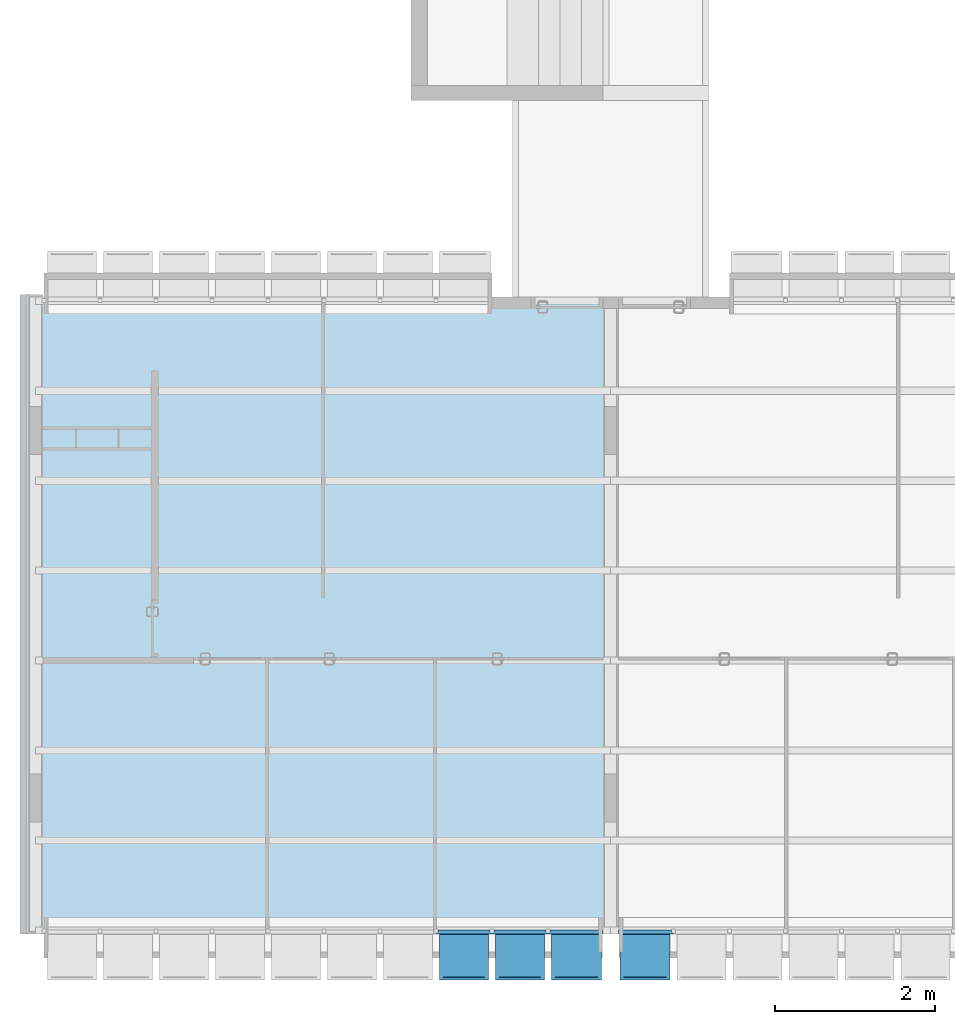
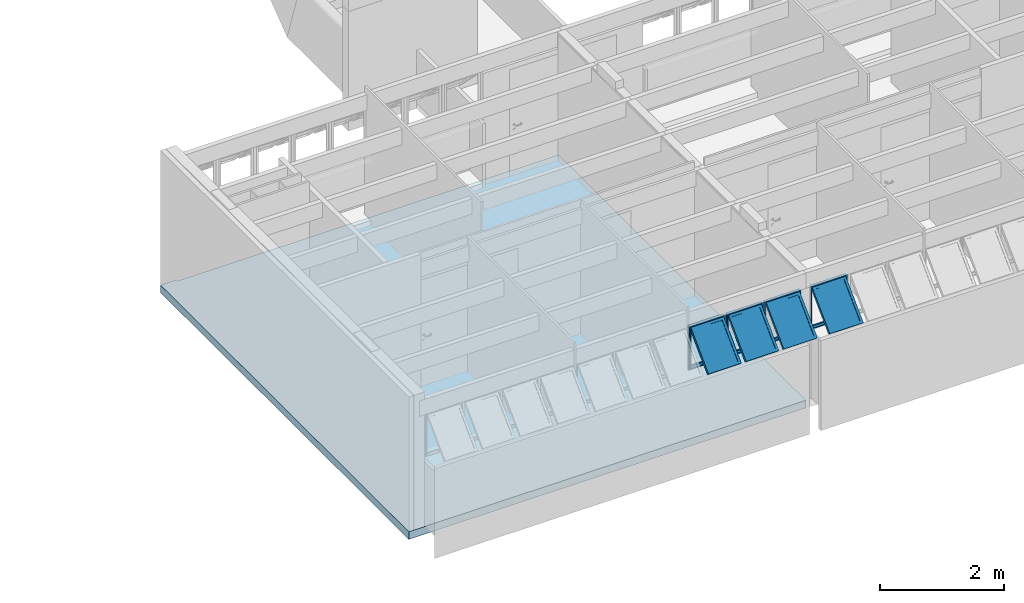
# One storey, part 5 of 41: 4 plates, 1 slab, 2 elements without a shape of their own.
"""IFC4 building model written with IfcOpenShell, lengths in millimetres."""

from ifc_helpers import new_model, entity, si_unit, converted_unit, derived_unit, direction, frame, origin_with_axes, place, context, subcontext, project, spatial, line, indexed_curve, outline, extrude, polygons, source, transform, mapped, material, layer, layer_set, layer_usage, constituent, constituent_set, type_object, element, aggregate, save


model = new_model("IFC4")

# Units and contexts
model_context = context("Model", 3, precision=0.01, world=origin_with_axes(), true_north=direction((0.0, 1.0)))
body_context = subcontext(model_context, "Body", "Model", "MODEL_VIEW")
ifc_project = project(units=[si_unit("LENGTHUNIT", "METRE", prefix="MILLI"), si_unit("AREAUNIT", "SQUARE_METRE"), si_unit("VOLUMEUNIT", "CUBIC_METRE"), converted_unit("PLANEANGLEUNIT", "DEGREE", entity("IfcPlaneAngleMeasure", 0.0174532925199), si_unit("PLANEANGLEUNIT", "RADIAN"), dimensions=[0, 0, 0, 0, 0, 0, 0]), converted_unit("TIMEUNIT", "Year", entity("IfcTimeMeasure", 31556926.0), si_unit("TIMEUNIT", "SECOND"), dimensions=[0, 0, 1, 0, 0, 0, 0]), si_unit("MASSUNIT", "GRAM", prefix="KILO"), si_unit("THERMODYNAMICTEMPERATUREUNIT", "DEGREE_CELSIUS"), si_unit("LUMINOUSINTENSITYUNIT", "LUMEN"), si_unit("ENERGYUNIT", "JOULE", prefix="MEGA"), derived_unit("THERMALCONDUCTANCEUNIT", [(si_unit("POWERUNIT", "WATT"), 1), (si_unit("LENGTHUNIT", "METRE"), -1), (si_unit("THERMODYNAMICTEMPERATUREUNIT", "KELVIN"), -1)]), derived_unit("SPECIFICHEATCAPACITYUNIT", [(si_unit("ENERGYUNIT", "JOULE"), 1), (si_unit("MASSUNIT", "GRAM", prefix="KILO"), -1), (si_unit("THERMODYNAMICTEMPERATUREUNIT", "KELVIN"), -1)]), derived_unit("MASSDENSITYUNIT", [(si_unit("MASSUNIT", "GRAM", prefix="KILO"), 1), (si_unit("VOLUMEUNIT", "CUBIC_METRE"), -1)])], contexts=[model_context])

# Site, building, storey
site_placement = place(None, origin_with_axes())
site = spatial("IfcSite", under=ifc_project, at=site_placement, Name="Local", CompositionType="ELEMENT")
building_placement = place(site_placement, origin_with_axes())
building = spatial("IfcBuilding", under=site, at=building_placement, Name="Construção", CompositionType="ELEMENT")
storey_placement = place(building_placement, frame((0.0, 0.0, 2650.0), z_axis=(0.0, 0.0, 1.0), x_axis=(1.0, 0.0, 0.0)))
storey = spatial("IfcBuildingStorey", under=building, at=storey_placement, Name="Segundo Pavimento", CompositionType="ELEMENT", Elevation=2650.0)

# Slab
ifc_material_1 = material(Name="Concreto Armado Moldado in Loco - Estrutural")
ifc_layer = layer(ifc_material_1, 150.0, ventilated="UNKNOWN", Name="Concreto Armado Moldado in Loco - Estrutural")
ifc_layer_set = layer_set([ifc_layer], Name="Concreto Armado Moldado in Loco - Estrutural 150")
ifc_layer_usage = layer_usage(ifc_layer_set, "AXIS3", "NEGATIVE", 150.0)
slab_type = type_object("IfcSlabType", Name="Concreto Armado Moldado in Loco - Estrutural 150", PredefinedType="FLOOR")
slab_placement = place(storey_placement, frame((0.0, 300.0, 0.0), z_axis=(0.0, 0.0, 1.0), x_axis=(1.0, 0.0, 0.0)))
element("IfcSlab", 1, at=slab_placement, inside=storey, type_object=slab_type, material=ifc_layer_usage, Name="APTO5-LAJE-000", PredefinedType="FLOOR", context=body_context, shape_type="SweptSolid", body=[
    extrude(outline(indexed_curve([(0.0, 0.0), (299.999978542, 0.0), (7385.0, 0.0), (7385.0, 7964.99999866), (6160.00008404, 7964.99999866), (5900.0, 7965.0), (290.0, 7965.0), (289.999999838, 8000.00000006), (0.0, 7999.99999872)], segments=[line(1, 2, 3, 4, 5, 6, 7, 8, 9, 1)])), frame((0.0, 0.0, -150.0), z_axis=(0.0, 0.0, 1.0), x_axis=(1.0, 0.0, 0.0)), (0.0, 0.0, 1.0), 150.0),
])

# Window, plates
window_type = type_object("IfcWindowType", Name="Tipo de Parede Cortina", PartitioningType="NOTDEFINED", PredefinedType="NOTDEFINED")
window_1_placement = place(storey_placement, frame((6250.0, 315.020977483, 1355.02054151), z_axis=(0.0, 0.0, 1.0), x_axis=(1.0, 0.0, 0.0)))
window_1 = element("IfcWindow", 2, at=window_1_placement, inside=storey, type_object=window_type, Name="APTO5-JANELA-001", PredefinedType="NOTDEFINED")
ifc_material_2 = material(Name="Alumínio")
ifc_constituent_1 = constituent(ifc_material_2, Name="Alumínio")
ifc_material_3 = material(Name="Vidro")
ifc_constituent_2 = constituent(ifc_material_3, Name="Vidro")
ifc_constituent_set_1 = constituent_set(constituents=[ifc_constituent_1, ifc_constituent_2])
plate_type_1 = type_object("IfcPlateType", Name="Painel Principal 690 x 845 x 20", PredefinedType="CURTAIN_PANEL")
shared_shape_1 = source(origin_with_axes(), body_context, "Body", "Tessellation", [
    polygons([(25.0000036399, 0.0, -40.0), (674.999997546, 0.0, -40.0), (674.999997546, 0.0, -35.0), (25.0000036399, 0.0, -35.0), (70.0000036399, 45.0, -40.0), (629.999997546, 45.0, -40.0), (629.999997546, 45.0, -35.0), (70.0000036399, 45.0, -35.0)], [[[1, 2, 3, 4]], [[1, 5, 6, 2]], [[2, 6, 7, 3]], [[4, 3, 7, 8]], [[5, 1, 4, 8]], [[6, 5, 8, 7]]], closed=True),
    polygons([(674.999997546, 0.0, -40.0), (674.999997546, 844.999891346, -40.0), (674.999997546, 844.999891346, -35.0), (674.999997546, 0.0, -35.0), (629.999997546, 45.0, -40.0), (629.999997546, 799.999891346, -40.0), (629.999997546, 799.999891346, -35.0), (629.999997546, 45.0, -35.0)], [[[1, 2, 3, 4]], [[1, 5, 6, 2]], [[2, 6, 7, 3]], [[4, 3, 7, 8]], [[5, 1, 4, 8]], [[6, 5, 8, 7]]], closed=True),
    polygons([(25.0000036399, 844.999891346, -40.0), (70.0000036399, 799.999891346, -40.0), (70.0000036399, 799.999891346, -35.0), (25.0000036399, 844.999891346, -35.0), (674.999997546, 844.999891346, -40.0), (629.999997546, 799.999891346, -40.0), (629.999997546, 799.999891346, -35.0), (674.999997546, 844.999891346, -35.0)], [[[1, 2, 3, 4]], [[1, 5, 6, 2]], [[2, 6, 7, 3]], [[4, 3, 7, 8]], [[5, 1, 4, 8]], [[6, 5, 8, 7]]], closed=True),
    polygons([(25.0000036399, 0.0, -40.0), (70.0000036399, 45.0, -40.0), (70.0000036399, 45.0, -35.0), (25.0000036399, 0.0, -35.0), (25.0000036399, 844.999891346, -40.0), (70.0000036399, 799.999891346, -40.0), (70.0000036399, 799.999891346, -35.0), (25.0000036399, 844.999891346, -35.0)], [[[1, 2, 3, 4]], [[1, 5, 6, 2]], [[2, 6, 7, 3]], [[4, 3, 7, 8]], [[5, 1, 4, 8]], [[6, 5, 8, 7]]], closed=True),
    polygons([(25.0000036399, 0.0, -35.0), (674.999997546, 0.0, -35.0), (674.999997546, 0.0, 15.0), (25.0000036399, 0.0, 15.0), (45.0000036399, 20.0, -35.0), (654.999997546, 20.0, -35.0), (654.999997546, 20.0, 15.0), (45.0000036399, 20.0, 15.0)], [[[1, 2, 3, 4]], [[1, 5, 6, 2]], [[2, 6, 7, 3]], [[4, 3, 7, 8]], [[5, 1, 4, 8]], [[6, 5, 8, 7]]], closed=True),
    polygons([(674.999997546, 0.0, -35.0), (674.999997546, 844.999891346, -35.0), (674.999997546, 844.999891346, 15.0), (674.999997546, 0.0, 15.0), (654.999997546, 20.0, -35.0), (654.999997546, 824.999891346, -35.0), (654.999997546, 824.999891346, 15.0), (654.999997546, 20.0, 15.0)], [[[1, 2, 3, 4]], [[1, 5, 6, 2]], [[2, 6, 7, 3]], [[4, 3, 7, 8]], [[5, 1, 4, 8]], [[6, 5, 8, 7]]], closed=True),
    polygons([(25.0000036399, 844.999891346, -35.0), (45.0000036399, 824.999891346, -35.0), (45.0000036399, 824.999891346, 15.0), (25.0000036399, 844.999891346, 15.0), (674.999997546, 844.999891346, -35.0), (654.999997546, 824.999891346, -35.0), (654.999997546, 824.999891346, 15.0), (674.999997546, 844.999891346, 15.0)], [[[1, 2, 3, 4]], [[1, 5, 6, 2]], [[2, 6, 7, 3]], [[4, 3, 7, 8]], [[5, 1, 4, 8]], [[6, 5, 8, 7]]], closed=True),
    polygons([(25.0000036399, 0.0, -35.0), (45.0000036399, 20.0, -35.0), (45.0000036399, 20.0, 15.0), (25.0000036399, 0.0, 15.0), (25.0000036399, 844.999891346, -35.0), (45.0000036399, 824.999891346, -35.0), (45.0000036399, 824.999891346, 15.0), (25.0000036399, 844.999891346, 15.0)], [[[1, 2, 3, 4]], [[1, 5, 6, 2]], [[2, 6, 7, 3]], [[4, 3, 7, 8]], [[5, 1, 4, 8]], [[6, 5, 8, 7]]], closed=True),
    polygons([(694.999995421, 0.0, -10.0), (694.999995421, 844.999891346, -10.0), (694.999995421, 844.999891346, 10.0), (694.999995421, 0.0, 10.0), (674.999997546, 0.0, -10.0), (674.999997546, 844.999891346, -10.0), (674.999997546, 844.999891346, 10.0), (674.999997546, 0.0, 10.0)], [[[1, 2, 3, 4]], [[1, 5, 6, 2]], [[2, 6, 7, 3]], [[4, 3, 7, 8]], [[5, 1, 4, 8]], [[6, 5, 8, 7]]], closed=True),
    polygons([(5.00000576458, 844.999891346, -10.0), (5.00000576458, 0.0, -10.0), (5.00000576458, 0.0, 10.0), (5.00000576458, 844.999891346, 10.0), (25.0000036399, 844.999891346, -10.0), (25.0000036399, 0.0, -10.0), (25.0000036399, 0.0, 10.0), (25.0000036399, 844.999891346, 10.0)], [[[1, 2, 3, 4]], [[1, 5, 6, 2]], [[2, 6, 7, 3]], [[4, 3, 7, 8]], [[5, 1, 4, 8]], [[6, 5, 8, 7]]], closed=True),
    polygons([(90.0000036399, 252.243475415, 517.045737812), (90.0000036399, 757.824747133, 11.4644660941), (90.0000036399, 796.715620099, 50.3553390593), (90.0000036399, 291.13434838, 555.936610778), (45.0000036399, 220.423670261, 548.865542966), (45.0000036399, 789.644552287, -20.3553390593), (45.0000036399, 828.535425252, 18.5355339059), (45.0000036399, 259.314543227, 587.756415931)], [[[1, 2, 3, 4]], [[1, 5, 6, 2]], [[2, 6, 7, 3]], [[4, 3, 7, 8]], [[5, 1, 4, 8]], [[6, 5, 8, 7]]], closed=True),
    polygons([(654.999997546, 220.423670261, 548.865542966), (654.999997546, 789.644552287, -20.3553390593), (654.999997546, 828.535425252, 18.5355339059), (654.999997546, 259.314543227, 587.756415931), (609.999997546, 252.243475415, 517.045737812), (609.999997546, 757.824747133, 11.4644660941), (609.999997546, 796.715620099, 50.3553390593), (609.999997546, 291.13434838, 555.936610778)], [[[1, 2, 3, 4]], [[1, 5, 6, 2]], [[2, 6, 7, 3]], [[4, 3, 7, 8]], [[5, 1, 4, 8]], [[6, 5, 8, 7]]], closed=True),
    polygons([(654.999997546, 220.423670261, 548.865542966), (609.999997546, 252.243475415, 517.045737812), (609.999997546, 291.13434838, 555.936610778), (654.999997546, 259.314543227, 587.756415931), (45.0000036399, 220.423670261, 548.865542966), (90.0000036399, 252.243475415, 517.045737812), (90.0000036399, 291.13434838, 555.936610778), (45.0000036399, 259.314543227, 587.756415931)], [[[1, 2, 3, 4]], [[1, 5, 6, 2]], [[2, 6, 7, 3]], [[4, 3, 7, 8]], [[5, 1, 4, 8]], [[6, 5, 8, 7]]], closed=True),
    polygons([(45.0000036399, 789.644552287, -20.3553390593), (90.0000036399, 757.824747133, 11.4644660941), (90.0000036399, 796.715620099, 50.3553390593), (45.0000036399, 828.535425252, 18.5355339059), (654.999997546, 789.644552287, -20.3553390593), (609.999997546, 757.824747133, 11.4644660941), (609.999997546, 796.715620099, 50.3553390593), (654.999997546, 828.535425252, 18.5355339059)], [[[1, 2, 3, 4]], [[1, 5, 6, 2]], [[2, 6, 7, 3]], [[4, 3, 7, 8]], [[5, 1, 4, 8]], [[6, 5, 8, 7]]], closed=True),
    polygons([(90.0000036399, 272.749572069, 537.551834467), (609.999997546, 272.749572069, 537.551834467), (609.999997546, 284.063280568, 548.865542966), (90.0000036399, 284.063280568, 548.865542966), (90.0000036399, 778.330843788, 31.9705627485), (609.999997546, 778.330843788, 31.9705627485), (609.999997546, 789.644552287, 43.2842712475), (90.0000036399, 789.644552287, 43.2842712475)], [[[1, 2, 3, 4]], [[1, 5, 6, 2]], [[2, 6, 7, 3]], [[4, 3, 7, 8]], [[5, 1, 4, 8]], [[6, 5, 8, 7]]], closed=True),
])
plate_1_placement = place(window_1_placement, frame((0.0, 0.0, 422.499945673), z_axis=(0.0, 0.0, 1.0), x_axis=(-1.0, 0.0, 0.0)))
plate_1 = element("IfcPlate", 3, at=plate_1_placement, type_object=plate_type_1, material=ifc_constituent_set_1, Name="APTO5-Painel-Prin-030", PredefinedType="CURTAIN_PANEL", context=body_context, shape_type="MappedRepresentation", body=[
    mapped(shared_shape_1, transform((350.0, 0.0, -422.499945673), x_axis=(-1.0, 0.0, 0.0), y_axis=(0.0, 0.0, 1.0), z_axis=(0.0, 1.0, 0.0))),
])
ifc_constituent_3 = constituent(ifc_material_2, Name="Alumínio")
ifc_constituent_4 = constituent(ifc_material_3, Name="Vidro")
ifc_constituent_set_2 = constituent_set(constituents=[ifc_constituent_3, ifc_constituent_4])
plate_2_placement = place(window_1_placement, frame((-700.0, 0.0, 422.499945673), z_axis=(0.0, 0.0, 1.0), x_axis=(-1.0, 0.0, 0.0)))
plate_2 = element("IfcPlate", 4, at=plate_2_placement, type_object=plate_type_1, material=ifc_constituent_set_2, Name="APTO5-Painel-Prin-020", PredefinedType="CURTAIN_PANEL", context=body_context, shape_type="MappedRepresentation", body=[
    mapped(shared_shape_1, transform((350.0, 0.0, -422.499945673), x_axis=(-1.0, 0.0, 0.0), y_axis=(0.0, 0.0, 1.0), z_axis=(0.0, 1.0, 0.0))),
])
ifc_constituent_5 = constituent(ifc_material_2, Name="Alumínio")
ifc_constituent_6 = constituent(ifc_material_3, Name="Vidro")
ifc_constituent_set_3 = constituent_set(constituents=[ifc_constituent_5, ifc_constituent_6])
plate_type_2 = type_object("IfcPlateType", Name="Painel Principal 685 x 845 x 20", PredefinedType="CURTAIN_PANEL")
shared_shape_2 = source(origin_with_axes(), body_context, "Body", "Tessellation", [
    polygons([(25.0000046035, 0.0, -40.0), (690.000079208, 0.0, -40.0), (690.000079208, 0.0, -35.0), (25.0000046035, 0.0, -35.0), (70.0000046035, 45.0, -40.0), (645.000079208, 45.0, -40.0), (645.000079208, 45.0, -35.0), (70.0000046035, 45.0, -35.0)], [[[1, 2, 3, 4]], [[1, 5, 6, 2]], [[2, 6, 7, 3]], [[4, 3, 7, 8]], [[5, 1, 4, 8]], [[6, 5, 8, 7]]], closed=True),
    polygons([(690.000079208, 0.0, -40.0), (690.000079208, 844.999923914, -40.0), (690.000079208, 844.999923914, -35.0), (690.000079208, 0.0, -35.0), (645.000079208, 45.0, -40.0), (645.000079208, 799.999923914, -40.0), (645.000079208, 799.999923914, -35.0), (645.000079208, 45.0, -35.0)], [[[1, 2, 3, 4]], [[1, 5, 6, 2]], [[2, 6, 7, 3]], [[4, 3, 7, 8]], [[5, 1, 4, 8]], [[6, 5, 8, 7]]], closed=True),
    polygons([(25.0000046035, 844.999923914, -40.0), (70.0000046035, 799.999923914, -40.0), (70.0000046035, 799.999923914, -35.0), (25.0000046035, 844.999923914, -35.0), (690.000079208, 844.999923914, -40.0), (645.000079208, 799.999923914, -40.0), (645.000079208, 799.999923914, -35.0), (690.000079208, 844.999923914, -35.0)], [[[1, 2, 3, 4]], [[1, 5, 6, 2]], [[2, 6, 7, 3]], [[4, 3, 7, 8]], [[5, 1, 4, 8]], [[6, 5, 8, 7]]], closed=True),
    polygons([(25.0000046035, 0.0, -40.0), (70.0000046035, 45.0, -40.0), (70.0000046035, 45.0, -35.0), (25.0000046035, 0.0, -35.0), (25.0000046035, 844.999923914, -40.0), (70.0000046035, 799.999923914, -40.0), (70.0000046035, 799.999923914, -35.0), (25.0000046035, 844.999923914, -35.0)], [[[1, 2, 3, 4]], [[1, 5, 6, 2]], [[2, 6, 7, 3]], [[4, 3, 7, 8]], [[5, 1, 4, 8]], [[6, 5, 8, 7]]], closed=True),
    polygons([(25.0000046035, 0.0, -35.0), (690.000079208, 0.0, -35.0), (690.000079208, 0.0, 15.0), (25.0000046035, 0.0, 15.0), (45.0000046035, 20.0, -35.0), (670.000079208, 20.0, -35.0), (670.000079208, 20.0, 15.0), (45.0000046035, 20.0, 15.0)], [[[1, 2, 3, 4]], [[1, 5, 6, 2]], [[2, 6, 7, 3]], [[4, 3, 7, 8]], [[5, 1, 4, 8]], [[6, 5, 8, 7]]], closed=True),
    polygons([(690.000079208, 0.0, -35.0), (690.000079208, 844.999923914, -35.0), (690.000079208, 844.999923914, 15.0), (690.000079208, 0.0, 15.0), (670.000079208, 20.0, -35.0), (670.000079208, 824.999923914, -35.0), (670.000079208, 824.999923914, 15.0), (670.000079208, 20.0, 15.0)], [[[1, 2, 3, 4]], [[1, 5, 6, 2]], [[2, 6, 7, 3]], [[4, 3, 7, 8]], [[5, 1, 4, 8]], [[6, 5, 8, 7]]], closed=True),
    polygons([(25.0000046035, 844.999923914, -35.0), (45.0000046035, 824.999923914, -35.0), (45.0000046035, 824.999923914, 15.0), (25.0000046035, 844.999923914, 15.0), (690.000079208, 844.999923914, -35.0), (670.000079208, 824.999923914, -35.0), (670.000079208, 824.999923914, 15.0), (690.000079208, 844.999923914, 15.0)], [[[1, 2, 3, 4]], [[1, 5, 6, 2]], [[2, 6, 7, 3]], [[4, 3, 7, 8]], [[5, 1, 4, 8]], [[6, 5, 8, 7]]], closed=True),
    polygons([(25.0000046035, 0.0, -35.0), (45.0000046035, 20.0, -35.0), (45.0000046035, 20.0, 15.0), (25.0000046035, 0.0, 15.0), (25.0000046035, 844.999923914, -35.0), (45.0000046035, 824.999923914, -35.0), (45.0000046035, 824.999923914, 15.0), (25.0000046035, 844.999923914, 15.0)], [[[1, 2, 3, 4]], [[1, 5, 6, 2]], [[2, 6, 7, 3]], [[4, 3, 7, 8]], [[5, 1, 4, 8]], [[6, 5, 8, 7]]], closed=True),
    polygons([(5.00000595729, 844.999923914, -10.0), (5.00000595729, 0.0, -10.0), (5.00000595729, 0.0, 10.0), (5.00000595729, 844.999923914, 10.0), (25.0000046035, 844.999923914, -10.0), (25.0000046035, 0.0, -10.0), (25.0000046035, 0.0, 10.0), (25.0000046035, 844.999923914, 10.0)], [[[1, 2, 3, 4]], [[1, 5, 6, 2]], [[2, 6, 7, 3]], [[4, 3, 7, 8]], [[5, 1, 4, 8]], [[6, 5, 8, 7]]], closed=True),
    polygons([(90.0000046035, 252.243484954, 517.045760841), (90.0000046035, 757.824779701, 11.4644660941), (90.0000046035, 796.715652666, 50.3553390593), (90.0000046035, 291.134357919, 555.936633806), (45.0000046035, 220.4236798, 548.865565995), (45.0000046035, 789.644584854, -20.3553390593), (45.0000046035, 828.535457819, 18.5355339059), (45.0000046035, 259.314552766, 587.75643896)], [[[1, 2, 3, 4]], [[1, 5, 6, 2]], [[2, 6, 7, 3]], [[4, 3, 7, 8]], [[5, 1, 4, 8]], [[6, 5, 8, 7]]], closed=True),
    polygons([(670.000079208, 220.4236798, 548.865565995), (670.000079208, 789.644584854, -20.3553390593), (670.000079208, 828.535457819, 18.5355339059), (670.000079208, 259.314552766, 587.75643896), (625.000079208, 252.243484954, 517.045760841), (625.000079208, 757.824779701, 11.4644660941), (625.000079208, 796.715652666, 50.3553390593), (625.000079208, 291.134357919, 555.936633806)], [[[1, 2, 3, 4]], [[1, 5, 6, 2]], [[2, 6, 7, 3]], [[4, 3, 7, 8]], [[5, 1, 4, 8]], [[6, 5, 8, 7]]], closed=True),
    polygons([(670.000079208, 220.4236798, 548.865565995), (625.000079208, 252.243484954, 517.045760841), (625.000079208, 291.134357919, 555.936633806), (670.000079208, 259.314552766, 587.75643896), (45.0000046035, 220.4236798, 548.865565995), (90.0000046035, 252.243484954, 517.045760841), (90.0000046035, 291.134357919, 555.936633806), (45.0000046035, 259.314552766, 587.75643896)], [[[1, 2, 3, 4]], [[1, 5, 6, 2]], [[2, 6, 7, 3]], [[4, 3, 7, 8]], [[5, 1, 4, 8]], [[6, 5, 8, 7]]], closed=True),
    polygons([(45.0000046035, 789.644584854, -20.3553390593), (90.0000046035, 757.824779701, 11.4644660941), (90.0000046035, 796.715652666, 50.3553390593), (45.0000046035, 828.535457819, 18.5355339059), (670.000079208, 789.644584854, -20.3553390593), (625.000079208, 757.824779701, 11.4644660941), (625.000079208, 796.715652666, 50.3553390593), (670.000079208, 828.535457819, 18.5355339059)], [[[1, 2, 3, 4]], [[1, 5, 6, 2]], [[2, 6, 7, 3]], [[4, 3, 7, 8]], [[5, 1, 4, 8]], [[6, 5, 8, 7]]], closed=True),
    polygons([(90.0000046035, 272.749581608, 537.551857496), (625.000079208, 272.749581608, 537.551857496), (625.000079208, 284.063290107, 548.865565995), (90.0000046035, 284.063290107, 548.865565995), (90.0000046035, 778.330876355, 31.9705627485), (625.000079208, 778.330876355, 31.9705627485), (625.000079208, 789.644584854, 43.2842712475), (90.0000046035, 789.644584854, 43.2842712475)], [[[1, 2, 3, 4]], [[1, 5, 6, 2]], [[2, 6, 7, 3]], [[4, 3, 7, 8]], [[5, 1, 4, 8]], [[6, 5, 8, 7]]], closed=True),
])
plate_3_placement = place(window_1_placement, frame((695.000037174, 0.0, 422.499953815), z_axis=(0.0, 0.0, 1.0), x_axis=(-1.0, 0.0, 0.0)))
plate_3 = element("IfcPlate", 5, at=plate_3_placement, type_object=plate_type_2, material=ifc_constituent_set_3, Name="APTO5-Painel-Prin-031", PredefinedType="CURTAIN_PANEL", context=body_context, shape_type="MappedRepresentation", body=[
    mapped(shared_shape_2, transform((345.000037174, 0.0, -422.499953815), x_axis=(-1.0, 0.0, 0.0), y_axis=(0.0, 0.0, 1.0), z_axis=(0.0, 1.0, 0.0))),
])
aggregate(window_1, [plate_1, plate_3, plate_2])

# Window, plate
window_2_placement = place(storey_placement, frame((8520.0, 315.020977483, 1355.02054151), z_axis=(0.0, 0.0, 1.0), x_axis=(1.0, 0.0, 0.0)))
window_2 = element("IfcWindow", 6, at=window_2_placement, inside=storey, type_object=window_type, Name="APTO6-JANELA-001", PredefinedType="NOTDEFINED")
ifc_constituent_7 = constituent(ifc_material_2, Name="Alumínio")
ifc_constituent_8 = constituent(ifc_material_3, Name="Vidro")
ifc_constituent_set_4 = constituent_set(constituents=[ifc_constituent_7, ifc_constituent_8])
shared_shape_3 = source(origin_with_axes(), body_context, "Body", "Tessellation", [
    polygons([(-25.0000046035, 0.0, -40.0), (-25.0000046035, 0.0, -35.0), (-690.000079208, 0.0, -35.0), (-690.000079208, 0.0, -40.0), (-70.0000046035, 45.0, -40.0), (-70.0000046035, 45.0, -35.0), (-645.000079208, 45.0, -35.0), (-645.000079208, 45.0, -40.0)], [[[1, 2, 3, 4]], [[5, 6, 2, 1]], [[2, 6, 7, 3]], [[4, 3, 7, 8]], [[1, 4, 8, 5]], [[8, 7, 6, 5]]], closed=True),
    polygons([(-690.000079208, 0.0, -40.0), (-690.000079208, 0.0, -35.0), (-690.000079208, 844.999923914, -35.0), (-690.000079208, 844.999923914, -40.0), (-645.000079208, 45.0, -40.0), (-645.000079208, 45.0, -35.0), (-645.000079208, 799.999923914, -35.0), (-645.000079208, 799.999923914, -40.0)], [[[1, 2, 3, 4]], [[5, 6, 2, 1]], [[2, 6, 7, 3]], [[4, 3, 7, 8]], [[1, 4, 8, 5]], [[8, 7, 6, 5]]], closed=True),
    polygons([(-25.0000046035, 844.999923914, -40.0), (-25.0000046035, 844.999923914, -35.0), (-70.0000046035, 799.999923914, -35.0), (-70.0000046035, 799.999923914, -40.0), (-690.000079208, 844.999923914, -40.0), (-690.000079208, 844.999923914, -35.0), (-645.000079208, 799.999923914, -35.0), (-645.000079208, 799.999923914, -40.0)], [[[1, 2, 3, 4]], [[5, 6, 2, 1]], [[2, 6, 7, 3]], [[4, 3, 7, 8]], [[1, 4, 8, 5]], [[8, 7, 6, 5]]], closed=True),
    polygons([(-25.0000046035, 0.0, -40.0), (-25.0000046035, 0.0, -35.0), (-70.0000046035, 45.0, -35.0), (-70.0000046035, 45.0, -40.0), (-25.0000046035, 844.999923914, -40.0), (-25.0000046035, 844.999923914, -35.0), (-70.0000046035, 799.999923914, -35.0), (-70.0000046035, 799.999923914, -40.0)], [[[1, 2, 3, 4]], [[5, 6, 2, 1]], [[2, 6, 7, 3]], [[4, 3, 7, 8]], [[1, 4, 8, 5]], [[8, 7, 6, 5]]], closed=True),
    polygons([(-25.0000046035, 0.0, -35.0), (-25.0000046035, 0.0, 15.0), (-690.000079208, 0.0, 15.0), (-690.000079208, 0.0, -35.0), (-45.0000046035, 20.0, -35.0), (-45.0000046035, 20.0, 15.0), (-670.000079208, 20.0, 15.0), (-670.000079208, 20.0, -35.0)], [[[1, 2, 3, 4]], [[5, 6, 2, 1]], [[2, 6, 7, 3]], [[4, 3, 7, 8]], [[1, 4, 8, 5]], [[8, 7, 6, 5]]], closed=True),
    polygons([(-690.000079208, 0.0, -35.0), (-690.000079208, 0.0, 15.0), (-690.000079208, 844.999923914, 15.0), (-690.000079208, 844.999923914, -35.0), (-670.000079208, 20.0, -35.0), (-670.000079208, 20.0, 15.0), (-670.000079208, 824.999923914, 15.0), (-670.000079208, 824.999923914, -35.0)], [[[1, 2, 3, 4]], [[5, 6, 2, 1]], [[2, 6, 7, 3]], [[4, 3, 7, 8]], [[1, 4, 8, 5]], [[8, 7, 6, 5]]], closed=True),
    polygons([(-25.0000046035, 844.999923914, -35.0), (-25.0000046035, 844.999923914, 15.0), (-45.0000046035, 824.999923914, 15.0), (-45.0000046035, 824.999923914, -35.0), (-690.000079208, 844.999923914, -35.0), (-690.000079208, 844.999923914, 15.0), (-670.000079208, 824.999923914, 15.0), (-670.000079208, 824.999923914, -35.0)], [[[1, 2, 3, 4]], [[5, 6, 2, 1]], [[2, 6, 7, 3]], [[4, 3, 7, 8]], [[1, 4, 8, 5]], [[8, 7, 6, 5]]], closed=True),
    polygons([(-25.0000046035, 0.0, -35.0), (-25.0000046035, 0.0, 15.0), (-45.0000046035, 20.0, 15.0), (-45.0000046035, 20.0, -35.0), (-25.0000046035, 844.999923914, -35.0), (-25.0000046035, 844.999923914, 15.0), (-45.0000046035, 824.999923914, 15.0), (-45.0000046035, 824.999923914, -35.0)], [[[1, 2, 3, 4]], [[5, 6, 2, 1]], [[2, 6, 7, 3]], [[4, 3, 7, 8]], [[1, 4, 8, 5]], [[8, 7, 6, 5]]], closed=True),
    polygons([(-5.00000595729, 844.999923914, -10.0), (-5.00000595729, 844.999923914, 10.0), (-5.00000595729, 0.0, 10.0), (-5.00000595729, 0.0, -10.0), (-25.0000046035, 844.999923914, -10.0), (-25.0000046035, 844.999923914, 10.0), (-25.0000046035, 0.0, 10.0), (-25.0000046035, 0.0, -10.0)], [[[1, 2, 3, 4]], [[5, 6, 2, 1]], [[2, 6, 7, 3]], [[4, 3, 7, 8]], [[1, 4, 8, 5]], [[8, 7, 6, 5]]], closed=True),
    polygons([(-90.0000046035, 252.243484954, 517.045760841), (-90.0000046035, 291.134357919, 555.936633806), (-90.0000046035, 796.715652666, 50.3553390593), (-90.0000046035, 757.824779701, 11.4644660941), (-45.0000046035, 220.4236798, 548.865565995), (-45.0000046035, 259.314552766, 587.75643896), (-45.0000046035, 828.535457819, 18.5355339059), (-45.0000046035, 789.644584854, -20.3553390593)], [[[1, 2, 3, 4]], [[5, 6, 2, 1]], [[2, 6, 7, 3]], [[4, 3, 7, 8]], [[1, 4, 8, 5]], [[8, 7, 6, 5]]], closed=True),
    polygons([(-670.000079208, 220.4236798, 548.865565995), (-670.000079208, 259.314552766, 587.75643896), (-670.000079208, 828.535457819, 18.5355339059), (-670.000079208, 789.644584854, -20.3553390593), (-625.000079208, 252.243484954, 517.045760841), (-625.000079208, 291.134357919, 555.936633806), (-625.000079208, 796.715652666, 50.3553390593), (-625.000079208, 757.824779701, 11.4644660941)], [[[1, 2, 3, 4]], [[5, 6, 2, 1]], [[2, 6, 7, 3]], [[4, 3, 7, 8]], [[1, 4, 8, 5]], [[8, 7, 6, 5]]], closed=True),
    polygons([(-670.000079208, 220.4236798, 548.865565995), (-670.000079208, 259.314552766, 587.75643896), (-625.000079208, 291.134357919, 555.936633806), (-625.000079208, 252.243484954, 517.045760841), (-45.0000046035, 220.4236798, 548.865565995), (-45.0000046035, 259.314552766, 587.75643896), (-90.0000046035, 291.134357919, 555.936633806), (-90.0000046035, 252.243484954, 517.045760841)], [[[1, 2, 3, 4]], [[5, 6, 2, 1]], [[2, 6, 7, 3]], [[4, 3, 7, 8]], [[1, 4, 8, 5]], [[8, 7, 6, 5]]], closed=True),
    polygons([(-45.0000046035, 789.644584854, -20.3553390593), (-45.0000046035, 828.535457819, 18.5355339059), (-90.0000046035, 796.715652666, 50.3553390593), (-90.0000046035, 757.824779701, 11.4644660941), (-670.000079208, 789.644584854, -20.3553390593), (-670.000079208, 828.535457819, 18.5355339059), (-625.000079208, 796.715652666, 50.3553390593), (-625.000079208, 757.824779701, 11.4644660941)], [[[1, 2, 3, 4]], [[5, 6, 2, 1]], [[2, 6, 7, 3]], [[4, 3, 7, 8]], [[1, 4, 8, 5]], [[8, 7, 6, 5]]], closed=True),
    polygons([(-90.0000046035, 272.749581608, 537.551857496), (-90.0000046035, 284.063290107, 548.865565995), (-625.000079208, 284.063290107, 548.865565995), (-625.000079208, 272.749581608, 537.551857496), (-90.0000046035, 778.330876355, 31.9705627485), (-90.0000046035, 789.644584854, 43.2842712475), (-625.000079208, 789.644584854, 43.2842712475), (-625.000079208, 778.330876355, 31.9705627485)], [[[1, 2, 3, 4]], [[5, 6, 2, 1]], [[2, 6, 7, 3]], [[4, 3, 7, 8]], [[1, 4, 8, 5]], [[8, 7, 6, 5]]], closed=True),
])
plate_4_placement = place(window_2_placement, frame((-695.000037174, 0.0, 422.499953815), z_axis=(0.0, 0.0, 1.0), x_axis=(1.0, 0.0, 0.0)))
plate_4 = element("IfcPlate", 7, at=plate_4_placement, type_object=plate_type_2, material=ifc_constituent_set_4, Name="APTO6-Painel-Prin-031", PredefinedType="CURTAIN_PANEL", context=body_context, shape_type="MappedRepresentation", body=[
    mapped(shared_shape_3, transform((345.000037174, 0.0, -422.499953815), x_axis=(1.0, 0.0, 0.0), y_axis=(0.0, 0.0, 1.0), z_axis=(0.0, -1.0, 0.0))),
])
aggregate(window_2, [plate_4])

save(model, "model.ifc")
